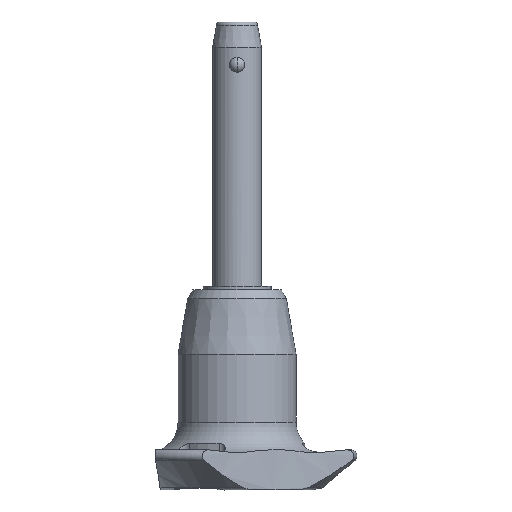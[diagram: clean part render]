
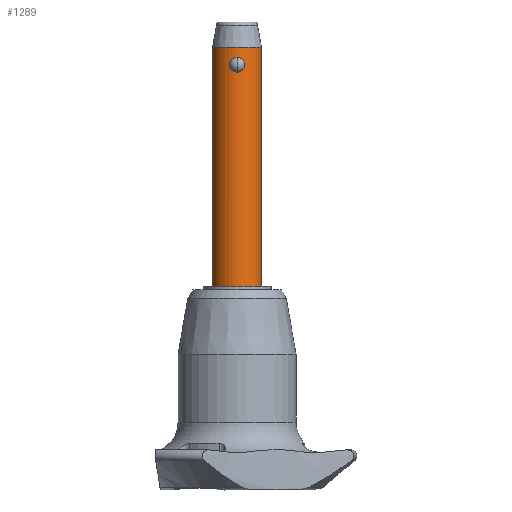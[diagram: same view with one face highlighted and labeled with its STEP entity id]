
A CAD part, front view. The second image highlights one B-rep face of the part: STEP entity #1289.
In plain terms, the highlighted cylindrical face has radius 4 mm (diameter 8 mm), a partial arc.
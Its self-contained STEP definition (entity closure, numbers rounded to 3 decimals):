
#2 = DIRECTION ( 'NONE',  ( 0., 0., -1. ) ) ;
#10 = CARTESIAN_POINT ( 'NONE',  ( -0.162, -4., 0. ) ) ;
#26 = VERTEX_POINT ( 'NONE', #1738 ) ;
#47 = CARTESIAN_POINT ( 'NONE',  ( 4., 0., 4.1 ) ) ;
#85 = VERTEX_POINT ( 'NONE', #2538 ) ;
#107 = CARTESIAN_POINT ( 'NONE',  ( 1.092, -3.848, 0.582 ) ) ;
#176 = CARTESIAN_POINT ( 'NONE',  ( 0.769, -3.927, 2.171 ) ) ;
#188 = CARTESIAN_POINT ( 'NONE',  ( -1.266, -3.794, 1.12 ) ) ;
#205 = CARTESIAN_POINT ( 'NONE',  ( 0., -4., 0. ) ) ;
#217 = CIRCLE ( 'NONE', #883, 4. ) ;
#218 = CARTESIAN_POINT ( 'NONE',  ( -1.133, -3.836, 1.747 ) ) ;
#235 = EDGE_LOOP ( 'NONE', ( #507, #2026, #1599, #1679 ) ) ;
#249 = FACE_BOUND ( 'NONE', #1884, .T. ) ;
#374 = CARTESIAN_POINT ( 'NONE',  ( -1.005, -3.874, 0.447 ) ) ;
#409 = CARTESIAN_POINT ( 'NONE',  ( 0., -4., 0. ) ) ;
#421 = CARTESIAN_POINT ( 'NONE',  ( -1.224, -3.808, 0.879 ) ) ;
#436 = CARTESIAN_POINT ( 'NONE',  ( -0.325, -3.99, 2.371 ) ) ;
#474 = CIRCLE ( 'NONE', #505, 4. ) ;
#505 = AXIS2_PLACEMENT_3D ( 'NONE', #1018, #2, #1070 ) ;
#507 = ORIENTED_EDGE ( 'NONE', *, *, #2558, .F. ) ;
#531 = CARTESIAN_POINT ( 'NONE',  ( 0., -4., 0. ) ) ;
#593 = CARTESIAN_POINT ( 'NONE',  ( -1.258, -3.797, 1.038 ) ) ;
#635 = CARTESIAN_POINT ( 'NONE',  ( -4., 0., -35. ) ) ;
#663 = DIRECTION ( 'NONE',  ( 1., 0., 0. ) ) ;
#709 = EDGE_CURVE ( 'NONE', #26, #2350, #2343, .T. ) ;
#751 = DIRECTION ( 'NONE',  ( 0., 0., -1. ) ) ;
#766 = CARTESIAN_POINT ( 'NONE',  ( 1.101, -3.846, 1.82 ) ) ;
#778 = EDGE_CURVE ( 'NONE', #2721, #85, #1058, .T. ) ;
#811 = CARTESIAN_POINT ( 'NONE',  ( -0.628, -3.953, 0.143 ) ) ;
#826 = CARTESIAN_POINT ( 'NONE',  ( -0.164, -4., 2.4 ) ) ;
#851 = DIRECTION ( 'NONE',  ( 0., 0., 1. ) ) ;
#868 = DIRECTION ( 'NONE',  ( 0., 0., 1. ) ) ;
#877 = ORIENTED_EDGE ( 'NONE', *, *, #778, .F. ) ;
#880 = AXIS2_PLACEMENT_3D ( 'NONE', #910, #2574, #663 ) ;
#883 = AXIS2_PLACEMENT_3D ( 'NONE', #2657, #751, #1206 ) ;
#909 = CARTESIAN_POINT ( 'NONE',  ( 4., 0., -35. ) ) ;
#910 = CARTESIAN_POINT ( 'NONE',  ( 0., 0., -35. ) ) ;
#954 = CARTESIAN_POINT ( 'NONE',  ( 1.266, -3.794, 1.035 ) ) ;
#996 = CARTESIAN_POINT ( 'NONE',  ( 0.162, -4., 0. ) ) ;
#1018 = CARTESIAN_POINT ( 'NONE',  ( 0., 0., -35. ) ) ;
#1034 = LINE ( 'NONE', #635, #1407 ) ;
#1041 = CARTESIAN_POINT ( 'NONE',  ( -0.827, -3.914, 2.117 ) ) ;
#1058 = B_SPLINE_CURVE_WITH_KNOTS ( 'NONE', 3,
 ( #531, #996, #1421, #2683, #1195, #1381, #1588, #107, #1219, #1858, #954, #2287, #1827, #1816, #2671, #766, #2495, #176, #1617, #2658, #2464, #2699 ),
 .UNSPECIFIED., .F., .F.,
 ( 4, 2, 2, 2, 2, 2, 2, 2, 2, 2, 4 ),
 ( 0.004, 0.004, 0.005, 0.005, 0.005, 0.006, 0.006, 0.006, 0.007, 0.007, 0.008 ),
 .UNSPECIFIED. ) ;
#1063 = CARTESIAN_POINT ( 'NONE',  ( -1.266, -3.794, 1.364 ) ) ;
#1070 = DIRECTION ( 'NONE',  ( 1., 0., 0. ) ) ;
#1117 = CYLINDRICAL_SURFACE ( 'NONE', #880, 4. ) ;
#1195 = CARTESIAN_POINT ( 'NONE',  ( 0.768, -3.927, 0.228 ) ) ;
#1206 = DIRECTION ( 'NONE',  ( 1., 0., 0. ) ) ;
#1219 = CARTESIAN_POINT ( 'NONE',  ( 1.132, -3.836, 0.651 ) ) ;
#1262 = CARTESIAN_POINT ( 'NONE',  ( -1.199, -3.816, 0.802 ) ) ;
#1279 = CARTESIAN_POINT ( 'NONE',  ( -0.553, -3.962, 2.285 ) ) ;
#1289 = ADVANCED_FACE ( 'NONE', ( #1319, #249 ), #1117, .T. ) ;
#1319 = FACE_OUTER_BOUND ( 'NONE', #235, .T. ) ;
#1381 = CARTESIAN_POINT ( 'NONE',  ( 0.944, -3.887, 0.391 ) ) ;
#1407 = VECTOR ( 'NONE', #851, 1000. ) ;
#1421 = CARTESIAN_POINT ( 'NONE',  ( 0.326, -3.99, 0.029 ) ) ;
#1466 = B_SPLINE_CURVE_WITH_KNOTS ( 'NONE', 3,
 ( #2725, #826, #436, #1279, #2494, #1482, #1041, #2331, #1468, #1714, #218, #2711, #1063, #188, #593, #421, #1262, #2305, #374, #2525, #811, #1702, #10, #409 ),
 .UNSPECIFIED., .F., .F.,
 ( 4, 2, 2, 2, 2, 2, 2, 2, 2, 2, 2, 4 ),
 ( 0., 0., 0.001, 0.001, 0.001, 0.001, 0.002, 0.002, 0.002, 0.003, 0.003, 0.004 ),
 .UNSPECIFIED. ) ;
#1468 = CARTESIAN_POINT ( 'NONE',  ( -0.998, -3.874, 1.949 ) ) ;
#1482 = CARTESIAN_POINT ( 'NONE',  ( -0.762, -3.927, 2.166 ) ) ;
#1588 = CARTESIAN_POINT ( 'NONE',  ( 0.999, -3.874, 0.452 ) ) ;
#1599 = ORIENTED_EDGE ( 'NONE', *, *, #709, .T. ) ;
#1617 = CARTESIAN_POINT ( 'NONE',  ( 0.629, -3.953, 2.256 ) ) ;
#1679 = ORIENTED_EDGE ( 'NONE', *, *, #2119, .T. ) ;
#1702 = CARTESIAN_POINT ( 'NONE',  ( -0.326, -3.99, 0.029 ) ) ;
#1714 = CARTESIAN_POINT ( 'NONE',  ( -1.092, -3.848, 1.818 ) ) ;
#1738 = CARTESIAN_POINT ( 'NONE',  ( 4., 0., -35. ) ) ;
#1816 = CARTESIAN_POINT ( 'NONE',  ( 1.224, -3.808, 1.52 ) ) ;
#1827 = CARTESIAN_POINT ( 'NONE',  ( 1.258, -3.797, 1.361 ) ) ;
#1858 = CARTESIAN_POINT ( 'NONE',  ( 1.231, -3.806, 0.873 ) ) ;
#1884 = EDGE_LOOP ( 'NONE', ( #2092, #877 ) ) ;
#1893 = EDGE_CURVE ( 'NONE', #26, #2503, #474, .T. ) ;
#2026 = ORIENTED_EDGE ( 'NONE', *, *, #1893, .F. ) ;
#2033 = CARTESIAN_POINT ( 'NONE',  ( -4., 0., 4.1 ) ) ;
#2085 = VERTEX_POINT ( 'NONE', #2033 ) ;
#2092 = ORIENTED_EDGE ( 'NONE', *, *, #2214, .F. ) ;
#2119 = EDGE_CURVE ( 'NONE', #2350, #2085, #217, .T. ) ;
#2214 = EDGE_CURVE ( 'NONE', #85, #2721, #1466, .T. ) ;
#2287 = CARTESIAN_POINT ( 'NONE',  ( 1.266, -3.794, 1.281 ) ) ;
#2305 = CARTESIAN_POINT ( 'NONE',  ( -1.101, -3.846, 0.579 ) ) ;
#2331 = CARTESIAN_POINT ( 'NONE',  ( -0.945, -3.887, 2.008 ) ) ;
#2343 = LINE ( 'NONE', #909, #2689 ) ;
#2350 = VERTEX_POINT ( 'NONE', #47 ) ;
#2464 = CARTESIAN_POINT ( 'NONE',  ( 0.164, -4., 2.4 ) ) ;
#2494 = CARTESIAN_POINT ( 'NONE',  ( -0.625, -3.951, 2.25 ) ) ;
#2495 = CARTESIAN_POINT ( 'NONE',  ( 1.005, -3.874, 1.953 ) ) ;
#2503 = VERTEX_POINT ( 'NONE', #2534 ) ;
#2525 = CARTESIAN_POINT ( 'NONE',  ( -0.768, -3.927, 0.228 ) ) ;
#2534 = CARTESIAN_POINT ( 'NONE',  ( -4., 0., -35. ) ) ;
#2538 = CARTESIAN_POINT ( 'NONE',  ( 0., -4., 2.4 ) ) ;
#2558 = EDGE_CURVE ( 'NONE', #2503, #2085, #1034, .T. ) ;
#2574 = DIRECTION ( 'NONE',  ( 0., 0., 1. ) ) ;
#2657 = CARTESIAN_POINT ( 'NONE',  ( 0., 0., 4.1 ) ) ;
#2658 = CARTESIAN_POINT ( 'NONE',  ( 0.326, -3.99, 2.371 ) ) ;
#2671 = CARTESIAN_POINT ( 'NONE',  ( 1.199, -3.816, 1.599 ) ) ;
#2683 = CARTESIAN_POINT ( 'NONE',  ( 0.627, -3.953, 0.143 ) ) ;
#2689 = VECTOR ( 'NONE', #868, 1000. ) ;
#2699 = CARTESIAN_POINT ( 'NONE',  ( 0., -4., 2.4 ) ) ;
#2711 = CARTESIAN_POINT ( 'NONE',  ( -1.231, -3.806, 1.527 ) ) ;
#2721 = VERTEX_POINT ( 'NONE', #205 ) ;
#2725 = CARTESIAN_POINT ( 'NONE',  ( 0., -4., 2.4 ) ) ;
